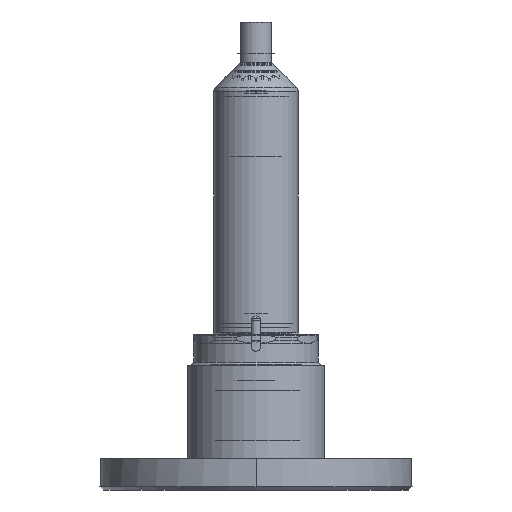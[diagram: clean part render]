
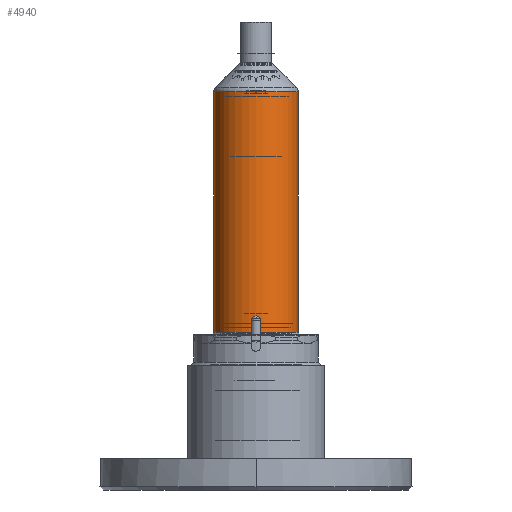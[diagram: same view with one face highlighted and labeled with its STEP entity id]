
A CAD part, front view. The second image highlights one B-rep face of the part: STEP entity #4940.
In plain terms, the highlighted cylindrical face has radius 13.5 mm (diameter 27 mm), a partial arc.
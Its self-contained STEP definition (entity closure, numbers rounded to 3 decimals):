
#663 = CARTESIAN_POINT ( 'NONE',  ( 13.5, 0., 47.584 ) ) ;
#1119 = CARTESIAN_POINT ( 'NONE',  ( -13.5, 0., 117.672 ) ) ;
#1278 = VECTOR ( 'NONE', #3693, 1000. ) ;
#2494 = EDGE_CURVE ( 'NONE', #20185, #20975, #4377, .T. ) ;
#2734 = DIRECTION ( 'NONE',  ( 1., 0., 0. ) ) ;
#3180 = DIRECTION ( 'NONE',  ( 0., 0., 1. ) ) ;
#3547 = CARTESIAN_POINT ( 'NONE',  ( 0., 0., 117.672 ) ) ;
#3693 = DIRECTION ( 'NONE',  ( 0., 0., 1. ) ) ;
#3986 = ORIENTED_EDGE ( 'NONE', *, *, #16224, .T. ) ;
#4164 = CARTESIAN_POINT ( 'NONE',  ( 0., 0., 47.584 ) ) ;
#4310 = EDGE_CURVE ( 'NONE', #11753, #20185, #18512, .T. ) ;
#4377 = CIRCLE ( 'NONE', #8209, 13.5 ) ;
#4736 = DIRECTION ( 'NONE',  ( 0., 0., 1. ) ) ;
#4940 = ADVANCED_FACE ( 'NONE', ( #10517 ), #15137, .T. ) ;
#5345 = EDGE_CURVE ( 'NONE', #16446, #20975, #8174, .T. ) ;
#5746 = DIRECTION ( 'NONE',  ( 0., 0., 1. ) ) ;
#6631 = CARTESIAN_POINT ( 'NONE',  ( 0., 0., 40.5 ) ) ;
#7337 = CARTESIAN_POINT ( 'NONE',  ( 13.5, 0., 117.672 ) ) ;
#7733 = CIRCLE ( 'NONE', #15356, 13.5 ) ;
#8174 = LINE ( 'NONE', #11259, #20782 ) ;
#8209 = AXIS2_PLACEMENT_3D ( 'NONE', #3547, #16354, #14769 ) ;
#8635 = CARTESIAN_POINT ( 'NONE',  ( -13.5, 0., 40.5 ) ) ;
#9674 = DIRECTION ( 'NONE',  ( 1., 0., 0. ) ) ;
#10517 = FACE_OUTER_BOUND ( 'NONE', #21110, .T. ) ;
#11132 = ORIENTED_EDGE ( 'NONE', *, *, #2494, .T. ) ;
#11259 = CARTESIAN_POINT ( 'NONE',  ( -13.5, 0., 47.584 ) ) ;
#11753 = VERTEX_POINT ( 'NONE', #20522 ) ;
#13748 = ORIENTED_EDGE ( 'NONE', *, *, #5345, .F. ) ;
#14769 = DIRECTION ( 'NONE',  ( 1., 0., 0. ) ) ;
#15137 = CYLINDRICAL_SURFACE ( 'NONE', #16258, 13.5 ) ;
#15356 = AXIS2_PLACEMENT_3D ( 'NONE', #6631, #3180, #9674 ) ;
#15835 = ORIENTED_EDGE ( 'NONE', *, *, #4310, .T. ) ;
#16224 = EDGE_CURVE ( 'NONE', #16446, #11753, #7733, .T. ) ;
#16258 = AXIS2_PLACEMENT_3D ( 'NONE', #4164, #5746, #2734 ) ;
#16354 = DIRECTION ( 'NONE',  ( 0., 0., -1. ) ) ;
#16446 = VERTEX_POINT ( 'NONE', #8635 ) ;
#18512 = LINE ( 'NONE', #663, #1278 ) ;
#20185 = VERTEX_POINT ( 'NONE', #7337 ) ;
#20522 = CARTESIAN_POINT ( 'NONE',  ( 13.5, 0., 40.5 ) ) ;
#20782 = VECTOR ( 'NONE', #4736, 1000. ) ;
#20975 = VERTEX_POINT ( 'NONE', #1119 ) ;
#21110 = EDGE_LOOP ( 'NONE', ( #13748, #3986, #15835, #11132 ) ) ;
